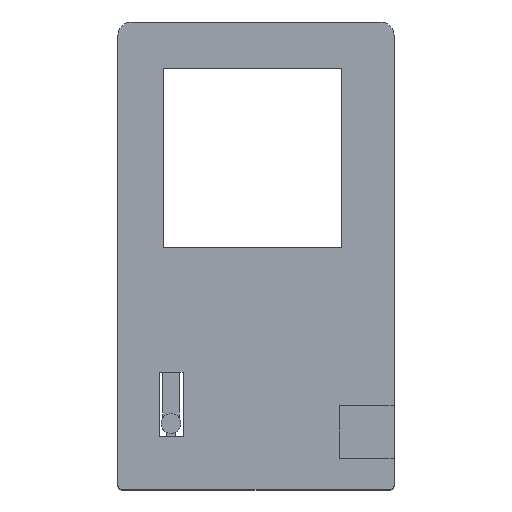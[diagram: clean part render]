
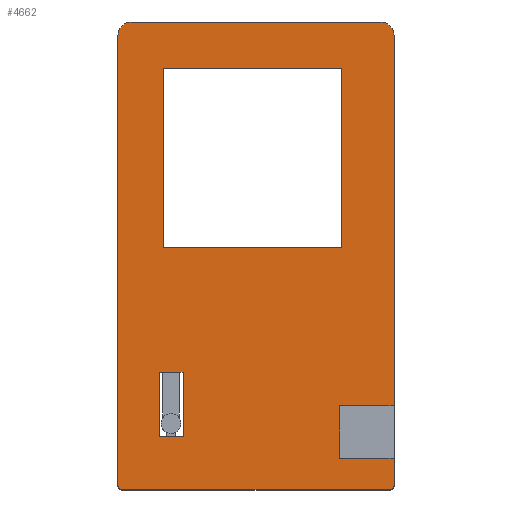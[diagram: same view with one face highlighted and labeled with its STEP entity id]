
A CAD part, top view. The second image highlights one B-rep face of the part: STEP entity #4662.
In plain terms, the highlighted planar face has unit normal (0, 0, 1).
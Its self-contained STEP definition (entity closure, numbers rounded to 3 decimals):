
#24 = VERTEX_POINT('',#25);
#25 = CARTESIAN_POINT('',(16.8,-117.8,15.));
#72 = VERTEX_POINT('',#73);
#73 = CARTESIAN_POINT('',(9.5,-117.8,15.));
#79 = EDGE_CURVE('',#24,#72,#80,.T.);
#80 = LINE('',#81,#82);
#81 = CARTESIAN_POINT('',(24.25,-117.8,15.));
#82 = VECTOR('',#83,1.);
#83 = DIRECTION('',(-1.,0.,0.));
#103 = VERTEX_POINT('',#104);
#104 = CARTESIAN_POINT('',(16.8,-98.2,15.));
#110 = EDGE_CURVE('',#24,#103,#111,.T.);
#111 = LINE('',#112,#113);
#112 = CARTESIAN_POINT('',(16.8,-90.502,15.));
#113 = VECTOR('',#114,1.);
#114 = DIRECTION('',(0.,1.,0.));
#134 = VERTEX_POINT('',#135);
#135 = CARTESIAN_POINT('',(9.5,-98.2,15.));
#141 = EDGE_CURVE('',#72,#134,#142,.T.);
#142 = LINE('',#143,#144);
#143 = CARTESIAN_POINT('',(9.5,-90.502,15.));
#144 = VECTOR('',#145,1.);
#145 = DIRECTION('',(0.,1.,0.));
#163 = EDGE_CURVE('',#103,#134,#164,.T.);
#164 = LINE('',#165,#166);
#165 = CARTESIAN_POINT('',(24.25,-98.2,15.));
#166 = VECTOR('',#167,1.);
#167 = DIRECTION('',(-1.,0.,0.));
#523 = VERTEX_POINT('',#524);
#524 = CARTESIAN_POINT('',(65.1,-60.2,15.));
#532 = VERTEX_POINT('',#533);
#533 = CARTESIAN_POINT('',(10.7,-60.2,15.));
#539 = EDGE_CURVE('',#523,#532,#540,.T.);
#540 = LINE('',#541,#542);
#541 = CARTESIAN_POINT('',(24.85,-60.2,15.));
#542 = VECTOR('',#543,1.);
#543 = DIRECTION('',(-1.,0.,0.));
#556 = VERTEX_POINT('',#557);
#557 = CARTESIAN_POINT('',(65.1,-5.8,15.));
#563 = EDGE_CURVE('',#523,#556,#564,.T.);
#564 = LINE('',#565,#566);
#565 = CARTESIAN_POINT('',(65.1,-61.702,15.));
#566 = VECTOR('',#567,1.);
#567 = DIRECTION('',(0.,1.,0.));
#580 = VERTEX_POINT('',#581);
#581 = CARTESIAN_POINT('',(10.7,-5.8,15.));
#587 = EDGE_CURVE('',#532,#580,#588,.T.);
#588 = LINE('',#589,#590);
#589 = CARTESIAN_POINT('',(10.7,-61.702,15.));
#590 = VECTOR('',#591,1.);
#591 = DIRECTION('',(0.,1.,0.));
#604 = EDGE_CURVE('',#556,#580,#605,.T.);
#605 = LINE('',#606,#607);
#606 = CARTESIAN_POINT('',(24.85,-5.8,15.));
#607 = VECTOR('',#608,1.);
#608 = DIRECTION('',(-1.,0.,0.));
#931 = VERTEX_POINT('',#932);
#932 = CARTESIAN_POINT('',(-3.,-132.8,15.));
#948 = VERTEX_POINT('',#949);
#949 = CARTESIAN_POINT('',(-1.8,-134.,15.));
#955 = EDGE_CURVE('',#931,#948,#956,.T.);
#956 = CIRCLE('',#957,1.2);
#957 = AXIS2_PLACEMENT_3D('',#958,#959,#960);
#958 = CARTESIAN_POINT('',(-1.8,-132.8,15.));
#959 = DIRECTION('',(0.,0.,1.));
#960 = DIRECTION('',(1.,0.,0.));
#970 = EDGE_CURVE('',#931,#971,#973,.T.);
#971 = VERTEX_POINT('',#972);
#972 = CARTESIAN_POINT('',(-3.,4.4,15.));
#973 = LINE('',#974,#975);
#974 = CARTESIAN_POINT('',(-3.,-130.,15.));
#975 = VECTOR('',#976,1.);
#976 = DIRECTION('',(0.,1.,0.));
#1116 = EDGE_CURVE('',#948,#1117,#1119,.T.);
#1117 = VERTEX_POINT('',#1118);
#1118 = CARTESIAN_POINT('',(79.8,-134.,15.));
#1119 = LINE('',#1120,#1121);
#1120 = CARTESIAN_POINT('',(-1.8,-134.,15.));
#1121 = VECTOR('',#1122,1.);
#1122 = DIRECTION('',(1.,0.,0.));
#1140 = EDGE_CURVE('',#1141,#971,#1143,.T.);
#1141 = VERTEX_POINT('',#1142);
#1142 = CARTESIAN_POINT('',(1.,8.4,15.));
#1143 = CIRCLE('',#1144,4.);
#1144 = AXIS2_PLACEMENT_3D('',#1145,#1146,#1147);
#1145 = CARTESIAN_POINT('',(1.,4.4,15.));
#1146 = DIRECTION('',(0.,0.,1.));
#1147 = DIRECTION('',(1.,0.,0.));
#1306 = VERTEX_POINT('',#1307);
#1307 = CARTESIAN_POINT('',(81.,-132.8,15.));
#1313 = EDGE_CURVE('',#1117,#1306,#1314,.T.);
#1314 = CIRCLE('',#1315,1.2);
#1315 = AXIS2_PLACEMENT_3D('',#1316,#1317,#1318);
#1316 = CARTESIAN_POINT('',(79.8,-132.8,15.));
#1317 = DIRECTION('',(0.,0.,1.));
#1318 = DIRECTION('',(1.,0.,0.));
#1515 = EDGE_CURVE('',#1141,#1516,#1518,.T.);
#1516 = VERTEX_POINT('',#1517);
#1517 = CARTESIAN_POINT('',(77.,8.4,15.));
#1518 = LINE('',#1519,#1520);
#1519 = CARTESIAN_POINT('',(1.,8.4,15.));
#1520 = VECTOR('',#1521,1.);
#1521 = DIRECTION('',(1.,0.,0.));
#1665 = EDGE_CURVE('',#1666,#1516,#1668,.T.);
#1666 = VERTEX_POINT('',#1667);
#1667 = CARTESIAN_POINT('',(81.,4.4,15.));
#1668 = CIRCLE('',#1669,4.);
#1669 = AXIS2_PLACEMENT_3D('',#1670,#1671,#1672);
#1670 = CARTESIAN_POINT('',(77.,4.4,15.));
#1671 = DIRECTION('',(0.,0.,1.));
#1672 = DIRECTION('',(1.,0.,0.));
#3390 = VERTEX_POINT('',#3391);
#3391 = CARTESIAN_POINT('',(64.55,-124.385,15.));
#3406 = VERTEX_POINT('',#3407);
#3407 = CARTESIAN_POINT('',(64.55,-108.385,15.));
#3413 = EDGE_CURVE('',#3390,#3406,#3414,.T.);
#3414 = LINE('',#3415,#3416);
#3415 = CARTESIAN_POINT('',(64.55,-125.785,15.));
#3416 = VECTOR('',#3417,1.);
#3417 = DIRECTION('',(0.,1.,0.));
#4662 = ADVANCED_FACE('',(#4663,#4701,#4707),#4713,.T.);
#4663 = FACE_BOUND('',#4664,.T.);
#4664 = EDGE_LOOP('',(#4665,#4666,#4667,#4668,#4669,#4677,#4683,#4684,
    #4692,#4698,#4699,#4700));
#4665 = ORIENTED_EDGE('',*,*,#970,.F.);
#4666 = ORIENTED_EDGE('',*,*,#955,.T.);
#4667 = ORIENTED_EDGE('',*,*,#1116,.T.);
#4668 = ORIENTED_EDGE('',*,*,#1313,.T.);
#4669 = ORIENTED_EDGE('',*,*,#4670,.T.);
#4670 = EDGE_CURVE('',#1306,#4671,#4673,.T.);
#4671 = VERTEX_POINT('',#4672);
#4672 = CARTESIAN_POINT('',(81.,-124.385,15.));
#4673 = LINE('',#4674,#4675);
#4674 = CARTESIAN_POINT('',(81.,-132.8,15.));
#4675 = VECTOR('',#4676,1.);
#4676 = DIRECTION('',(0.,1.,0.));
#4677 = ORIENTED_EDGE('',*,*,#4678,.T.);
#4678 = EDGE_CURVE('',#4671,#3390,#4679,.T.);
#4679 = LINE('',#4680,#4681);
#4680 = CARTESIAN_POINT('',(51.075,-124.385,15.));
#4681 = VECTOR('',#4682,1.);
#4682 = DIRECTION('',(-1.,0.,0.));
#4683 = ORIENTED_EDGE('',*,*,#3413,.T.);
#4684 = ORIENTED_EDGE('',*,*,#4685,.F.);
#4685 = EDGE_CURVE('',#4686,#3406,#4688,.T.);
#4686 = VERTEX_POINT('',#4687);
#4687 = CARTESIAN_POINT('',(81.,-108.385,15.));
#4688 = LINE('',#4689,#4690);
#4689 = CARTESIAN_POINT('',(51.075,-108.385,15.));
#4690 = VECTOR('',#4691,1.);
#4691 = DIRECTION('',(-1.,0.,0.));
#4692 = ORIENTED_EDGE('',*,*,#4693,.T.);
#4693 = EDGE_CURVE('',#4686,#1666,#4694,.T.);
#4694 = LINE('',#4695,#4696);
#4695 = CARTESIAN_POINT('',(81.,-132.8,15.));
#4696 = VECTOR('',#4697,1.);
#4697 = DIRECTION('',(0.,1.,0.));
#4698 = ORIENTED_EDGE('',*,*,#1665,.T.);
#4699 = ORIENTED_EDGE('',*,*,#1515,.F.);
#4700 = ORIENTED_EDGE('',*,*,#1140,.T.);
#4701 = FACE_BOUND('',#4702,.T.);
#4702 = EDGE_LOOP('',(#4703,#4704,#4705,#4706));
#4703 = ORIENTED_EDGE('',*,*,#539,.T.);
#4704 = ORIENTED_EDGE('',*,*,#587,.T.);
#4705 = ORIENTED_EDGE('',*,*,#604,.F.);
#4706 = ORIENTED_EDGE('',*,*,#563,.F.);
#4707 = FACE_BOUND('',#4708,.T.);
#4708 = EDGE_LOOP('',(#4709,#4710,#4711,#4712));
#4709 = ORIENTED_EDGE('',*,*,#79,.T.);
#4710 = ORIENTED_EDGE('',*,*,#141,.T.);
#4711 = ORIENTED_EDGE('',*,*,#163,.F.);
#4712 = ORIENTED_EDGE('',*,*,#110,.F.);
#4713 = PLANE('',#4714);
#4714 = AXIS2_PLACEMENT_3D('',#4715,#4716,#4717);
#4715 = CARTESIAN_POINT('',(40.763,-66.841,15.));
#4716 = DIRECTION('',(0.,0.,1.));
#4717 = DIRECTION('',(1.,0.,0.));
